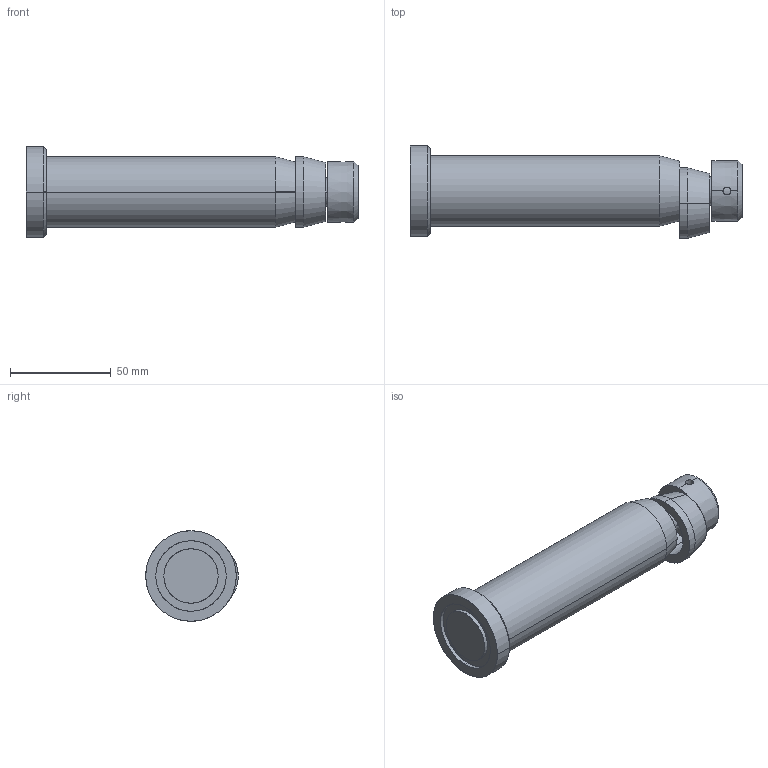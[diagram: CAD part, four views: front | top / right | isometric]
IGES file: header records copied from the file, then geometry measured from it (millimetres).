
Start section: START RECORD GO HERE.
Global section: file name: 395X-035-125.igs; native system: DASSAULT SYSTEMES CATIA V5 R20 - www.3ds.com; preprocessor: CATIA Version 5 Release 20 ; author: Utente; organization: NB04-ASUS; date: 20200410.171243; units: millimetre
Bounding box: 165 x 46 x 45 mm (x, y, z)
Surface area: 26100.8 mm2 (no closed solid volume)
Topology: 0 solids, 0 shells, 42 faces, 182 edges, 182 vertices
Faces by surface type: revolution 32, extrusion 10
